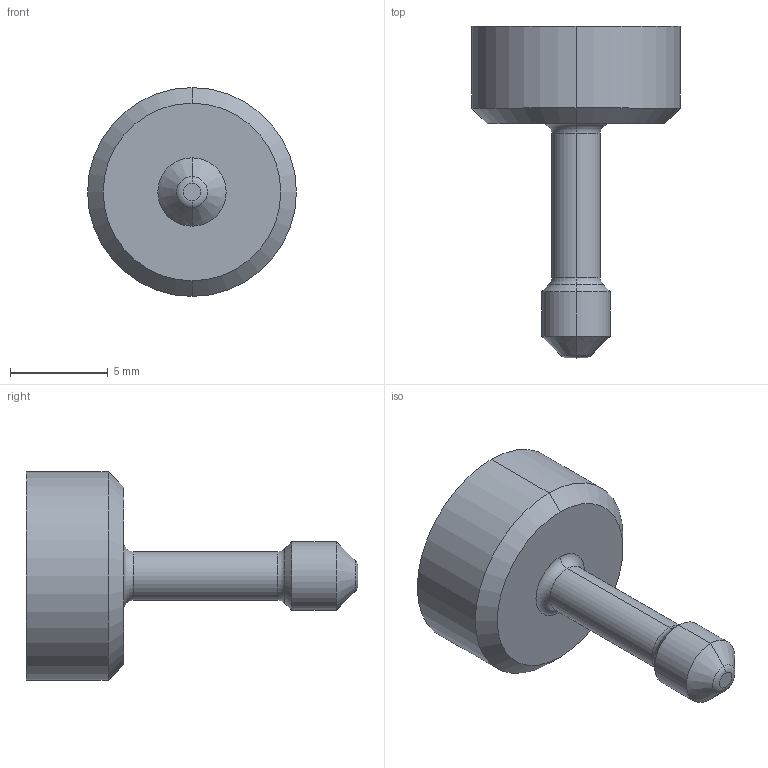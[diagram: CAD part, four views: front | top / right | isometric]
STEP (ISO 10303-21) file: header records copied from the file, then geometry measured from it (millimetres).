
FILE_DESCRIPTION (( 'STEP AP214' ), '1' );
FILE_NAME ('IA 100724.STEP', '2020-08-12T07:35:55', ( '' ), ( '' ), 'SwSTEP 2.0', 'SolidWorks 2019', '' );
FILE_SCHEMA (( 'AUTOMOTIVE_DESIGN' ));
Length unit declared in the file: millimetre
Products named in the file (1): IA 100724
Bounding box: 10.7 x 17 x 10.7 mm (x, y, z)
Volume: 503.3 mm3; surface area: 450 mm2
Topology: 1 solids, 1 shells, 63 faces, 154 edges, 98 vertices
Faces by surface type: plane 31, cylinder 11, bspline 9, torus 6, cone 6
Entity records: 2316 total; most frequent: CARTESIAN_POINT 805, ORIENTED_EDGE 308, DIRECTION 284, EDGE_CURVE 154, VERTEX_POINT 98, VECTOR 98, LINE 98, AXIS2_PLACEMENT_3D 93
